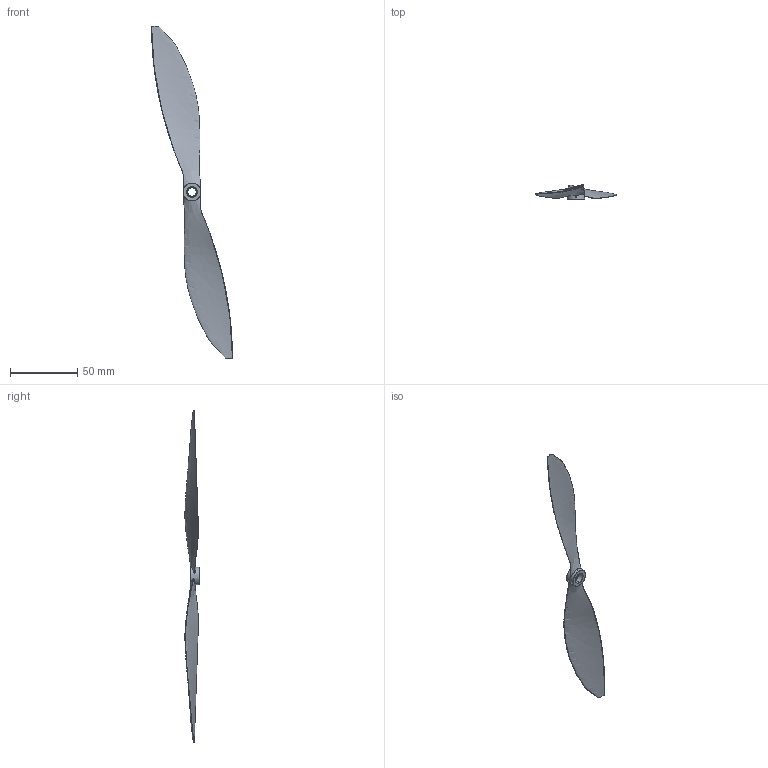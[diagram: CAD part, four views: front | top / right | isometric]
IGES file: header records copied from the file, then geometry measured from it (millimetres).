
Start section: SolidWorks IGES file using analytic representation for surfaces
Global section: file name: C:\Users\Nathan\Google Drive\quad_school\awesome props\10x4.7.IGS; native system: SolidWorks 2012; preprocessor: SolidWorks 2012; author: Nathan; date: 130412.203628; units: millimetre
Bounding box: 60 x 10.48 x 246.4 mm (x, y, z)
Surface area: 10968 mm2 (no closed solid volume)
Topology: 0 solids, 0 shells, 18 faces, 598 edges, 598 vertices
Faces by surface type: bspline 10, revolution 8
